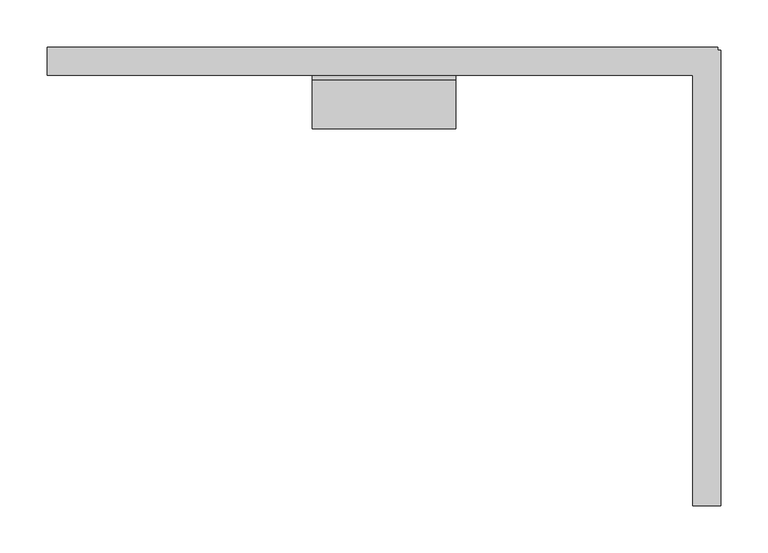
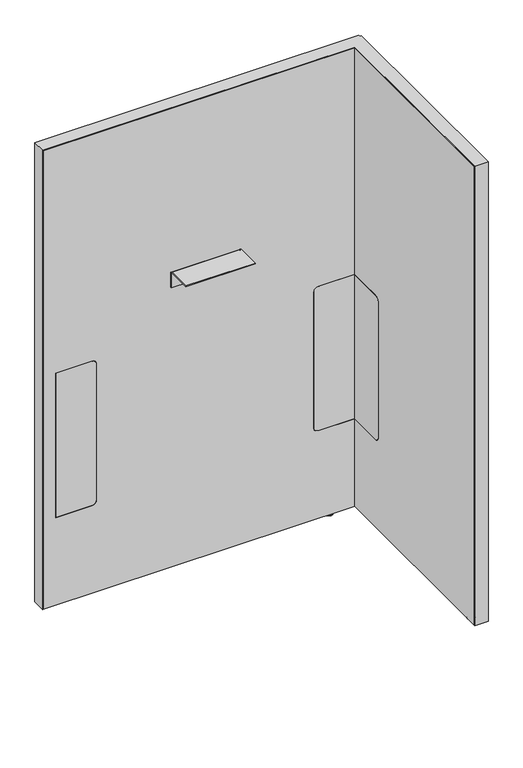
"""IFC4 building model written with IfcOpenShell, lengths in millimetres: furniture geometry, Steelcase - Answer Solution - Boundary Screen - L Return - Single Sided : 42H x 27W."""

from ifc_helpers import new_model, si_unit, point, frame, frame_2d, origin, place, context, project, spatial, polyline, circle_curve, ellipse_curve, trimmed, segment, composite_curve, outline, extrude, faceted_brep, source, transform, mapped, element, save
from ifc_brep_helpers import plane_surface, cylinder_surface, revolved_surface, advanced_brep


def furniture_e806eeda(model_context):
    return source(origin(), model_context, "Body", "SolidModel", [
        extrude(outline(composite_curve([segment(polyline([(-109.3501471, 549.6162029), (-29.0550397, 549.6162029), (-29.0550397, 213.7762137), (-109.3501471, 213.7762137)]), True, "CONTINUOUS"), segment(trimmed(circle_curve(frame_2d((-109.3501471, 223.9362137)), 10.16), [point((-109.3501471, 213.7762137))], [point((-119.5101471, 223.9362137))], False, "CARTESIAN"), True, "CONTINUOUS"), segment(polyline([(-119.5101471, 223.9362137), (-119.5101471, 539.4562029)]), True, "CONTINUOUS"), segment(trimmed(circle_curve(frame_2d((-109.3501471, 539.4562029)), 10.16), [point((-119.5101471, 539.4562029))], [point((-109.3501471, 549.6162029))], False, "CARTESIAN"), True, "CONTINUOUS")], self_intersect=False)), frame((915.6191891, 0.0, 0.0), z_axis=(1.0, 0.0, 0.0), x_axis=(0.0, 1.0, 0.0)), (0.0, 0.0, 1.0), 0.6401544),
        advanced_brep(
        [(930.4672074, -448.0136072, 0.0), (937.4216144, -448.0136072, 0.0), (923.5128003, -448.0136072, 0.0), (938.8762685, -448.0136072, 1.2700001), (922.0581463, -448.0136072, 1.2700001), (938.8762685, -448.0136072, 2.9673238), (922.0581463, -448.0136072, 2.9673238), (939.8427877, -448.0136072, 2.9673238), (921.091627, -448.0136072, 2.9673238), (939.8427877, -448.0136072, 9.9059849), (921.091627, -448.0136072, 9.9059849), (930.4672074, -448.0136072, 9.9059849)],
        [
            (0, 1),
            (1, 2, circle_curve(frame((930.4672074, -448.0136072, 0.0), z_axis=(0.0, 0.0, -1.0), x_axis=(1.0, 0.0, 0.0)), 6.9544071)),
            (2, 0),
            (2, 1, circle_curve(frame((930.4672074, -448.0136072, 0.0), z_axis=(0.0, 0.0, -1.0), x_axis=(1.0, 0.0, 0.0)), 6.9544071)),
            (1, 3, circle_curve(frame((937.5945484, -448.0136072, 1.2700001), z_axis=(0.0, -1.0, 0.0), x_axis=(0.0, 0.0, 1.0)), 1.2817201)),
            (3, 4, circle_curve(frame((930.4672074, -448.0136072, 1.2700001), z_axis=(0.0, 0.0, -1.0), x_axis=(1.0, 0.0, 0.0)), 8.4090611)),
            (4, 2, circle_curve(frame((923.3398663, -448.0136072, 1.2700001), z_axis=(0.0, -1.0, 0.0), x_axis=(0.0, 0.0, 1.0)), 1.2817201)),
            (4, 3, circle_curve(frame((930.4672074, -448.0136072, 1.2700001), z_axis=(0.0, 0.0, -1.0), x_axis=(1.0, 0.0, 0.0)), 8.4090611)),
            (3, 5),
            (5, 6, circle_curve(frame((930.4672074, -448.0136072, 2.9673238), z_axis=(0.0, 0.0, -1.0), x_axis=(1.0, 0.0, 0.0)), 8.4090611)),
            (6, 4),
            (6, 5, circle_curve(frame((930.4672074, -448.0136072, 2.9673238), z_axis=(0.0, 0.0, -1.0), x_axis=(1.0, 0.0, 0.0)), 8.4090611)),
            (5, 7),
            (7, 8, circle_curve(frame((930.4672074, -448.0136072, 2.9673238), z_axis=(0.0, 0.0, -1.0), x_axis=(1.0, 0.0, 0.0)), 9.3755804)),
            (8, 6),
            (8, 7, circle_curve(frame((930.4672074, -448.0136072, 2.9673238), z_axis=(0.0, 0.0, -1.0), x_axis=(1.0, 0.0, 0.0)), 9.3755804)),
            (7, 9),
            (9, 10, circle_curve(frame((930.4672074, -448.0136072, 9.9059849), z_axis=(0.0, 0.0, -1.0), x_axis=(1.0, 0.0, 0.0)), 9.3755804)),
            (10, 8),
            (10, 9, circle_curve(frame((930.4672074, -448.0136072, 9.9059849), z_axis=(0.0, 0.0, -1.0), x_axis=(1.0, 0.0, 0.0)), 9.3755804)),
            (9, 11),
            (11, 10),
        ],
        [
            plane_surface(frame((930.4672074, -448.0136072, 0.0), z_axis=(0.0, 0.0, -1.0), x_axis=(1.0, 0.0, 0.0))),
            revolved_surface(trimmed(ellipse_curve(frame((937.5945484, -448.0136072, 1.2700001), z_axis=(0.0, 1.0, 0.0), x_axis=(0.0, 0.0, 1.0)), 1.2817201, 1.2817201), [point((938.8762685, -448.0136072, 1.2700001))], [point((937.4216144, -448.0136072, 0.0))], True, "CARTESIAN"), (930.4672074, -448.0136072, 9.9059849), (0.0, 0.0, -1.0)),
            cylinder_surface(frame((930.4672074, -448.0136072, 9.9059849), z_axis=(0.0, 0.0, -1.0), x_axis=(1.0, 0.0, 0.0)), 8.4090611),
            plane_surface(frame((930.4672074, -448.0136072, 2.9673238), z_axis=(0.0, 0.0, -1.0), x_axis=(1.0, 0.0, 0.0))),
            cylinder_surface(frame((930.4672074, -448.0136072, 9.9059849), z_axis=(0.0, 0.0, -1.0), x_axis=(1.0, 0.0, 0.0)), 9.3755804),
            plane_surface(frame((930.4672074, -448.0136072, 9.9059849), z_axis=(0.0, 0.0, 1.0), x_axis=(1.0, 0.0, 0.0))),
        ],
        [
            (0, [[1, 2, 3]]),
            (0, [[-3, 4, -1]]),
            (1, [[-2, 5, 6, 7]]),
            (1, [[-4, -7, 8, -5]]),
            (2, [[-6, 9, 10, 11]]),
            (2, [[-8, -11, 12, -9]]),
            (3, [[-10, 13, 14, 15]]),
            (3, [[-12, -15, 16, -13]]),
            (4, [[-14, 17, 18, 19]]),
            (4, [[-16, -19, 20, -17]]),
            (5, [[-18, 21, 22]]),
            (5, [[-20, -22, -21]]),
        ],
    ),
        faceted_brep([(942.0531179, 0.0, 1077.722), (942.0531179, 0.0, 9.9059849), (941.0621491, 0.0, 9.9059849), (941.0621491, 0.0, 1076.742118), (230.8097779, 0.0, 1076.742118), (230.8097779, 0.0, 9.9059849), (229.8191891, 0.0, 9.9059849), (229.8191891, 0.0, 1077.722), (229.8191891, -29.6898332, 1077.722), (229.8191891, -29.6898332, 9.9059849), (230.8097779, -29.6898332, 9.9059849), (230.8097779, -29.6898332, 1076.742118), (915.6191891, -29.6898332, 1076.742118), (915.6191891, -29.6898332, 1077.722), (941.0621491, -29.6898332, 1076.742118), (941.0621491, -29.6898332, 9.9059849), (942.0531179, -29.6898332, 9.9059849), (942.0531179, -29.6898332, 1076.742118), (942.0531179, -3.2625916, 1077.722), (942.0531179, -3.2625916, 9.9059849), (942.0531179, -4.252647, 9.9059849), (942.0531179, -4.252647, 1076.742118), (945.3152256, -3.2625916, 9.9059849), (945.3152256, -4.252647, 9.9059849), (941.0621491, -4.252647, 9.9059849), (915.6191891, -4.252647, 9.9059849), (915.6191891, -3.2625916, 9.9059849), (941.0621491, -3.2625916, 9.9059849), (915.6191891, -486.8898332, 1077.722), (945.3152256, -486.8898332, 1077.722), (945.3152256, -3.2625916, 1077.722), (941.0621491, -3.2625916, 1076.742118), (941.0621491, -4.252647, 1076.742118), (915.6191891, -3.2625916, 1076.742118), (915.6191891, -4.252647, 1076.742118), (945.3152256, -4.252647, 1076.742118), (945.3152256, -485.899196, 1076.742118), (915.6191891, -485.899196, 1076.742118), (915.6191891, -485.899196, 9.9059849), (915.6191891, -486.8898332, 9.9059849), (945.3152256, -486.8898332, 9.9059849), (945.3152256, -485.899196, 9.9059849)], [[[0, 1, 2, 3, 4, 5, 6, 7]], [[8, 9, 10, 11, 12, 13]], [[14, 15, 16, 17]], [[1, 0, 18, 19]], [[17, 16, 20, 21]], [[2, 1, 19, 22, 23, 20, 16, 15, 24, 25, 26, 27]], [[7, 6, 9, 8]], [[0, 7, 8, 13, 28, 29, 30, 18]], [[3, 2, 27, 31]], [[15, 14, 32, 24]], [[4, 3, 31, 33, 34, 32, 14, 17, 21, 35, 36, 37, 12, 11]], [[5, 4, 11, 10]], [[6, 5, 10, 9]], [[26, 25, 34, 33]], [[37, 38, 39, 28, 13, 12]], [[29, 40, 41, 36, 35, 23, 22, 30]], [[27, 26, 33, 31]], [[30, 22, 19, 18]], [[34, 25, 24, 32]], [[23, 35, 21, 20]], [[38, 37, 36, 41]], [[39, 38, 41, 40]], [[28, 39, 40, 29]]]),
        extrude(outline(composite_curve([segment(polyline([(-86.8398151, 696.4680019), (-86.8398151, 698.5), (-34.9450855, 698.5)]), True, "CONTINUOUS"), segment(trimmed(circle_curve(frame_2d((-34.9450855, 693.2447477)), 5.2552523), [point((-34.9450855, 698.5))], [point((-29.6898332, 693.2447477))], False, "CARTESIAN"), True, "CONTINUOUS"), segment(polyline([(-29.6898332, 693.2447477), (-29.6898332, 660.4), (-31.7218162, 660.4), (-31.7218162, 693.0058743)]), True, "CONTINUOUS"), segment(trimmed(circle_curve(frame_2d((-35.1839438, 693.0058743)), 3.4621276), [point((-31.7218162, 693.0058743))], [point((-35.1839438, 696.4680019))], True, "CARTESIAN"), True, "CONTINUOUS"), segment(polyline([(-35.1839438, 696.4680019), (-86.8398151, 696.4680019)]), True, "CONTINUOUS")], self_intersect=False)), frame((511.3685899, 0.0, 0.0), z_axis=(1.0, 0.0, 0.0), x_axis=(0.0, 1.0, 0.0)), (0.0, 0.0, 1.0), 152.4000969),
        advanced_brep(
        [(868.1246853, -23.7588726, 9.9059849), (868.1246853, -5.9309607, 9.9059849), (868.1246853, -14.8449166, 9.9059849), (868.1246853, -23.7588726, 2.9673238), (868.1246853, -5.9309607, 2.9673238), (868.1246853, -22.7915354, 2.9673238), (868.1246853, -6.8982978, 2.9673238), (868.1246853, -22.7915354, 1.6569081), (868.1246853, -6.8982978, 1.6569081), (868.1246853, -21.1346274, 0.0), (868.1246853, -8.5552059, 0.0), (868.1246853, -14.8449166, 0.0)],
        [
            (0, 1, circle_curve(frame((868.1246853, -14.8449166, 9.9059849), z_axis=(0.0, 0.0, 1.0), x_axis=(0.0, 1.0, 0.0)), 8.913956)),
            (1, 2),
            (2, 0),
            (1, 0, circle_curve(frame((868.1246853, -14.8449166, 9.9059849), z_axis=(0.0, 0.0, 1.0), x_axis=(0.0, 1.0, 0.0)), 8.913956)),
            (3, 4, circle_curve(frame((868.1246853, -14.8449166, 2.9673238), z_axis=(0.0, 0.0, 1.0), x_axis=(0.0, 1.0, 0.0)), 8.913956)),
            (4, 1),
            (0, 3),
            (4, 3, circle_curve(frame((868.1246853, -14.8449166, 2.9673238), z_axis=(0.0, 0.0, 1.0), x_axis=(0.0, 1.0, 0.0)), 8.913956)),
            (5, 6, circle_curve(frame((868.1246853, -14.8449166, 2.9673238), z_axis=(0.0, 0.0, 1.0), x_axis=(0.0, 1.0, 0.0)), 7.9466188)),
            (6, 4),
            (3, 5),
            (6, 5, circle_curve(frame((868.1246853, -14.8449166, 2.9673238), z_axis=(0.0, 0.0, 1.0), x_axis=(0.0, 1.0, 0.0)), 7.9466188)),
            (7, 8, circle_curve(frame((868.1246853, -14.8449166, 1.6569081), z_axis=(0.0, 0.0, 1.0), x_axis=(0.0, 1.0, 0.0)), 7.9466188)),
            (8, 6),
            (5, 7),
            (8, 7, circle_curve(frame((868.1246853, -14.8449166, 1.6569081), z_axis=(0.0, 0.0, 1.0), x_axis=(0.0, 1.0, 0.0)), 7.9466188)),
            (9, 10, circle_curve(frame((868.1246853, -14.8449166, 0.0), z_axis=(0.0, 0.0, 1.0), x_axis=(0.0, 1.0, 0.0)), 6.2897107)),
            (10, 8, circle_curve(frame((868.1246853, -8.5552059, 1.6569081), z_axis=(1.0, 0.0, 0.0), x_axis=(0.0, 1.0, 0.0)), 1.6569081)),
            (7, 9, circle_curve(frame((868.1246853, -21.1346274, 1.6569081), z_axis=(1.0, 0.0, 0.0), x_axis=(0.0, -1.0, 0.0)), 1.6569081)),
            (10, 9, circle_curve(frame((868.1246853, -14.8449166, 0.0), z_axis=(0.0, 0.0, 1.0), x_axis=(0.0, 1.0, 0.0)), 6.2897107)),
            (11, 10),
            (9, 11),
        ],
        [
            plane_surface(frame((868.1246853, -14.8449166, 9.9059849), z_axis=(0.0, 0.0, 1.0), x_axis=(0.0, 1.0, 0.0))),
            cylinder_surface(frame((868.1246853, -14.8449166, 9.9059849), z_axis=(0.0, 0.0, -1.0), x_axis=(0.0, 1.0, 0.0)), 8.913956),
            plane_surface(frame((868.1246853, -14.8449166, 2.9673238), z_axis=(0.0, 0.0, -1.0), x_axis=(0.0, 1.0, 0.0))),
            cylinder_surface(frame((868.1246853, -14.8449166, 9.9059849), z_axis=(0.0, 0.0, -1.0), x_axis=(0.0, 1.0, 0.0)), 7.9466188),
            revolved_surface(trimmed(ellipse_curve(frame((868.1246853, -8.5552059, 1.6569081), z_axis=(-1.0, 0.0, 0.0), x_axis=(0.0, 1.0, 0.0)), 1.6569081, 1.6569081), [point((868.1246853, -6.8982978, 1.6569081))], [point((868.1246853, -8.5552059, 0.0))], True, "CARTESIAN"), (868.1246853, -14.8449166, 9.9059849), (0.0, 0.0, -1.0)),
            plane_surface(frame((868.1246853, -14.8449166, 0.0), z_axis=(0.0, 0.0, -1.0), x_axis=(0.0, 1.0, 0.0))),
        ],
        [
            (0, [[1, 2, 3]]),
            (0, [[4, -3, -2]]),
            (1, [[5, 6, -1, 7]]),
            (1, [[8, -7, -4, -6]]),
            (2, [[9, 10, -5, 11]]),
            (2, [[12, -11, -8, -10]]),
            (3, [[13, 14, -9, 15]]),
            (3, [[16, -15, -12, -14]]),
            (4, [[17, 18, -13, 19]]),
            (4, [[20, -19, -16, -18]]),
            (5, [[21, -17, 22]]),
            (5, [[-22, -20, -21]]),
        ],
    ),
        advanced_brep(
        [(230.8097779, 0.0, 1076.742118), (941.0621491, 0.0, 1076.742118), (941.0621491, 0.0, 9.9059849), (230.8097779, 0.0, 9.9059849), (347.9483813, -29.0550397, 539.4562029), (337.7883813, -29.0550397, 549.6162029), (258.1344836, -29.0550397, 549.6162029), (258.1344836, -29.0550397, 213.7762137), (337.7883813, -29.0550397, 213.7762137), (347.9483813, -29.0550397, 223.9362137), (916.2593435, -29.0550397, 213.7762137), (916.2593435, -29.0550397, 549.6162029), (835.7109268, -29.0550397, 549.6162029), (825.5509268, -29.0550397, 539.4562029), (825.5509268, -29.0550397, 223.9362137), (835.7109268, -29.0550397, 213.7762137), (230.8097779, -29.6898332, 1076.742118), (230.8097779, -29.6898332, 9.9059849), (915.6191891, -29.6898332, 9.9059849), (915.6191891, -29.6898332, 213.7762137), (835.7109268, -29.6898332, 213.7762137), (825.5509268, -29.6898332, 223.9362137), (825.5509268, -29.6898332, 539.4562029), (835.7109268, -29.6898332, 549.6162029), (915.6191891, -29.6898332, 549.6162029), (915.6191891, -29.6898332, 1076.742118), (337.7883813, -29.6898332, 549.6162029), (347.9483813, -29.6898332, 539.4562029), (347.9483813, -29.6898332, 223.9362137), (337.7883813, -29.6898332, 213.7762137), (258.1344836, -29.6898332, 213.7762137), (258.1344836, -29.6898332, 549.6162029), (941.0621491, -4.252647, 9.9059849), (945.3152256, -4.252647, 9.9059849), (945.3152256, -485.899196, 9.9059849), (915.6191891, -485.899196, 9.9059849), (941.0621491, -4.252647, 1076.742118), (915.6191891, -485.899196, 1076.742118), (945.3152256, -485.899196, 1076.742118), (945.3152256, -4.252647, 1076.742118), (916.2593435, -109.3501471, 549.6162029), (915.6191891, -109.3501471, 549.6162029), (916.2593435, -109.3501471, 213.7762137), (916.2593435, -119.5101471, 223.9362137), (916.2593435, -119.5101471, 539.4562029), (915.6191891, -109.3501471, 213.7762137), (915.6191891, -119.5101471, 539.4562029), (915.6191891, -119.5101471, 223.9362137)],
        [
            (0, 1),
            (1, 2),
            (2, 3),
            (3, 0),
            (4, 5, circle_curve(frame((337.7883813, -29.0550397, 539.4562029), z_axis=(0.0, -1.0, 0.0), x_axis=(0.0, 0.0, 1.0)), 10.16)),
            (5, 6),
            (6, 7),
            (7, 8),
            (8, 9, circle_curve(frame((337.7883813, -29.0550397, 223.9362137), z_axis=(0.0, -1.0, 0.0), x_axis=(0.0, 0.0, 1.0)), 10.16)),
            (9, 4),
            (10, 11),
            (11, 12),
            (12, 13, circle_curve(frame((835.7109268, -29.0550397, 539.4562029), z_axis=(0.0, -1.0, 0.0), x_axis=(0.0, 0.0, 1.0)), 10.16)),
            (13, 14),
            (14, 15, circle_curve(frame((835.7109268, -29.0550397, 223.9362137), z_axis=(0.0, -1.0, 0.0), x_axis=(0.0, 0.0, 1.0)), 10.16)),
            (15, 10),
            (16, 17),
            (17, 18),
            (18, 19),
            (19, 20),
            (20, 21, circle_curve(frame((835.7109268, -29.6898332, 223.9362137), z_axis=(0.0, 1.0, 0.0), x_axis=(0.0, 0.0, 1.0)), 10.16)),
            (21, 22),
            (22, 23, circle_curve(frame((835.7109268, -29.6898332, 539.4562029), z_axis=(0.0, 1.0, 0.0), x_axis=(0.0, 0.0, 1.0)), 10.16)),
            (23, 24),
            (24, 25),
            (25, 16),
            (26, 27, circle_curve(frame((337.7883813, -29.6898332, 539.4562029), z_axis=(0.0, 1.0, 0.0), x_axis=(0.0, 0.0, 1.0)), 10.16)),
            (27, 28),
            (28, 29, circle_curve(frame((337.7883813, -29.6898332, 223.9362137), z_axis=(0.0, 1.0, 0.0), x_axis=(0.0, 0.0, 1.0)), 10.16)),
            (29, 30),
            (30, 31),
            (31, 26),
            (16, 0),
            (3, 17),
            (2, 32),
            (32, 33),
            (33, 34),
            (34, 35),
            (35, 18),
            (1, 36),
            (36, 32),
            (25, 37),
            (37, 38),
            (38, 39),
            (39, 36),
            (26, 5),
            (4, 27),
            (9, 28),
            (8, 29),
            (7, 30),
            (6, 31),
            (11, 40),
            (40, 41),
            (41, 24),
            (23, 12),
            (42, 43, circle_curve(frame((916.2593435, -109.3501471, 223.9362137), z_axis=(-1.0, 0.0, 0.0), x_axis=(0.0, 1.0, 0.0)), 10.16)),
            (43, 44),
            (44, 40, circle_curve(frame((916.2593435, -109.3501471, 539.4562029), z_axis=(-1.0, 0.0, 0.0), x_axis=(0.0, 1.0, 0.0)), 10.16)),
            (10, 42),
            (15, 20),
            (19, 45),
            (45, 42),
            (14, 21),
            (13, 22),
            (35, 37),
            (41, 46, circle_curve(frame((915.6191891, -109.3501471, 539.4562029), z_axis=(1.0, 0.0, 0.0), x_axis=(0.0, 1.0, 0.0)), 10.16)),
            (46, 47),
            (47, 45, circle_curve(frame((915.6191891, -109.3501471, 223.9362137), z_axis=(1.0, 0.0, 0.0), x_axis=(0.0, 1.0, 0.0)), 10.16)),
            (38, 34),
            (33, 39),
            (44, 46),
            (43, 47),
        ],
        [
            plane_surface(frame((347.9483813, 0.0, 549.6162029), z_axis=(0.0, 1.0, 0.0), x_axis=(0.0, 0.0, -1.0))),
            plane_surface(frame((347.9483813, -29.0550397, 549.6162029), z_axis=(0.0, -1.0, 0.0), x_axis=(0.0, 0.0, 1.0))),
            plane_surface(frame((941.0621491, -29.6898332, 1076.742118), z_axis=(0.0, -1.0, 0.0), x_axis=(-1.0, 0.0, 0.0))),
            plane_surface(frame((230.8097779, 0.0, 9.9059849), z_axis=(-1.0, 0.0, 0.0), x_axis=(0.0, -1.0, 0.0))),
            plane_surface(frame((941.0621491, 0.0, 9.9059849), z_axis=(0.0, 0.0, -1.0), x_axis=(0.0, -1.0, 0.0))),
            plane_surface(frame((941.0621491, 0.0, 1076.742118), z_axis=(1.0, 0.0, 0.0), x_axis=(0.0, -1.0, 0.0))),
            plane_surface(frame((230.8097779, 0.0, 1076.742118), z_axis=(0.0, 0.0, 1.0), x_axis=(0.0, -1.0, 0.0))),
            revolved_surface(polyline([(337.7883813, -29.6898332, 549.6162029), (337.7883813, -29.0550397, 549.6162029)]), (337.7883813, -29.6898332, 539.4562029), (0.0, -1.0, 0.0)),
            plane_surface(frame((347.9483813, 0.0, 223.9362137), z_axis=(-1.0, 0.0, 0.0), x_axis=(0.0, -1.0, 0.0))),
            revolved_surface(polyline([(337.7883813, -29.6898332, 234.0962137), (337.7883813, -29.0550397, 234.0962137)]), (337.7883813, -29.6898332, 223.9362137), (0.0, -1.0, 0.0)),
            plane_surface(frame((258.1344836, 0.0, 213.7762137), z_axis=(0.0, 0.0, 1.0), x_axis=(0.0, -1.0, 0.0))),
            plane_surface(frame((258.1344836, 0.0, 549.6162029), z_axis=(1.0, 0.0, 0.0), x_axis=(0.0, -1.0, 0.0))),
            plane_surface(frame((337.7883813, 0.0, 549.6162029), z_axis=(0.0, 0.0, -1.0), x_axis=(0.0, -1.0, 0.0))),
            plane_surface(frame((916.2593435, 0.0, 549.6162029), z_axis=(0.0, 0.0, -1.0), x_axis=(0.0, -1.0, 0.0))),
            plane_surface(frame((916.2593435, 0.0, 213.7762137), z_axis=(-1.0, 0.0, 0.0), x_axis=(0.0, -1.0, 0.0))),
            plane_surface(frame((835.7109268, 0.0, 213.7762137), z_axis=(0.0, 0.0, 1.0), x_axis=(0.0, -1.0, 0.0))),
            revolved_surface(polyline([(835.7109268, -29.6898332, 234.0962137), (835.7109268, -29.0550397, 234.0962137)]), (835.7109268, -29.6898332, 223.9362137), (0.0, -1.0, 0.0)),
            plane_surface(frame((825.5509268, 0.0, 539.4562029), z_axis=(1.0, 0.0, 0.0), x_axis=(0.0, -1.0, 0.0))),
            revolved_surface(polyline([(835.7109268, -29.6898332, 549.6162029), (835.7109268, -29.0550397, 549.6162029)]), (835.7109268, -29.6898332, 539.4562029), (0.0, -1.0, 0.0)),
            plane_surface(frame((915.6191891, -485.899196, 1076.742118), z_axis=(-1.0, 0.0, 0.0), x_axis=(0.0, 0.0, 1.0))),
            plane_surface(frame((945.3152256, -485.899196, 1076.742118), z_axis=(1.0, 0.0, 0.0), x_axis=(0.0, 0.0, -1.0))),
            plane_surface(frame((945.3152256, -4.252647, 9.9059849), z_axis=(0.0, 1.0, 0.0), x_axis=(-1.0, 0.0, 0.0))),
            plane_surface(frame((945.3152256, -485.899196, 1076.742118), z_axis=(0.0, -1.0, 0.0), x_axis=(-1.0, 0.0, 0.0))),
            revolved_surface(polyline([(915.6191891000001, -99.1901471, 539.4562029), (916.2593435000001, -99.1901471, 539.4562029)]), (-340.6902705, -109.3501471, 539.4562029), (-1.0, 0.0, 0.0)),
            plane_surface(frame((945.3152256, -119.5101471, 223.9362137), z_axis=(0.0, 1.0, 0.0), x_axis=(-1.0, 0.0, 0.0))),
            revolved_surface(polyline([(915.6191891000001, -99.1901471, 223.9362137), (916.2593435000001, -99.1901471, 223.9362137)]), (-340.6902705, -109.3501471, 223.9362137), (-1.0, 0.0, 0.0)),
        ],
        [
            (0, [[1, 2, 3, 4]]),
            (1, [[5, 6, 7, 8, 9, 10]]),
            (1, [[11, 12, 13, 14, 15, 16]]),
            (2, [[17, 18, 19, 20, 21, 22, 23, 24, 25, 26], [27, 28, 29, 30, 31, 32]]),
            (3, [[-17, 33, -4, 34]]),
            (4, [[-3, 35, 36, 37, 38, 39, -18, -34]]),
            (5, [[-2, 40, 41, -35]]),
            (6, [[-1, -33, -26, 42, 43, 44, 45, -40]]),
            (7, [[-27, 46, -5, 47]]),
            (8, [[-28, -47, -10, 48]]),
            (9, [[-29, -48, -9, 49]]),
            (10, [[-30, -49, -8, 50]]),
            (11, [[-31, -50, -7, 51]]),
            (12, [[-32, -51, -6, -46]]),
            (13, [[52, 53, 54, -24, 55, -12]]),
            (14, [[56, 57, 58, -52, -11, 59]]),
            (15, [[-59, -16, 60, -20, 61, 62]]),
            (16, [[-21, -60, -15, 63]]),
            (17, [[-22, -63, -14, 64]]),
            (18, [[-23, -64, -13, -55]]),
            (19, [[65, -42, -25, -54, 66, 67, 68, -61, -19, -39]]),
            (20, [[69, -37, 70, -44]]),
            (21, [[-70, -36, -41, -45]]),
            (22, [[-65, -38, -69, -43]]),
            (23, [[-66, -53, -58, 71]]),
            (24, [[-67, -71, -57, 72]]),
            (25, [[-68, -72, -56, -62]]),
        ],
    ),
        extrude(outline(composite_curve([segment(polyline([(549.6162029, 337.7883813), (549.6162029, 258.1344836), (213.7762137, 258.1344836), (213.7762137, 337.7883813)]), True, "CONTINUOUS"), segment(trimmed(circle_curve(frame_2d((223.9362137, 337.7883813)), 10.16), [point((213.7762137, 337.7883813))], [point((223.9362137, 347.9483813))], False, "CARTESIAN"), True, "CONTINUOUS"), segment(polyline([(223.9362137, 347.9483813), (539.4562029, 347.9483813)]), True, "CONTINUOUS"), segment(trimmed(circle_curve(frame_2d((539.4562029, 337.7883813)), 10.16), [point((539.4562029, 347.9483813))], [point((549.6162029, 337.7883813))], False, "CARTESIAN"), True, "CONTINUOUS")], self_intersect=False)), frame((0.0, -29.6898332, 0.0), z_axis=(0.0, 1.0, 0.0), x_axis=(0.0, 0.0, 1.0)), (0.0, 0.0, 1.0), 0.6347935),
        extrude(outline(composite_curve([segment(trimmed(circle_curve(frame_2d((539.4562029, 835.7109268)), 10.16), [point((549.6162029, 835.7109268))], [point((539.4562029, 825.5509268))], False, "CARTESIAN"), True, "CONTINUOUS"), segment(polyline([(539.4562029, 825.5509268), (223.9362137, 825.5509268)]), True, "CONTINUOUS"), segment(trimmed(circle_curve(frame_2d((223.9362137, 835.7109268)), 10.16), [point((223.9362137, 825.5509268))], [point((213.7762137, 835.7109268))], False, "CARTESIAN"), True, "CONTINUOUS"), segment(polyline([(213.7762137, 835.7109268), (213.7762137, 915.6191891), (549.6162029, 915.6191891), (549.6162029, 835.7109268)]), True, "CONTINUOUS")], self_intersect=False)), frame((0.0, -29.6898332, 0.0), z_axis=(0.0, 1.0, 0.0), x_axis=(0.0, 0.0, 1.0)), (0.0, 0.0, 1.0), 0.6347935),
    ])


if __name__ == "__main__":
    model = new_model("IFC4")
    model_context = context("Model", 3, world=origin())
    ifc_project = project(units=[si_unit("LENGTHUNIT", "METRE", prefix="MILLI")], contexts=[model_context])
    site = spatial("IfcSite", under=ifc_project)
    building = spatial("IfcBuilding", under=site)
    placement = place(None, origin())
    furniture_shape = furniture_e806eeda(model_context)
    element("IfcFurniture", 1, ObjectType="Steelcase - Answer Solution - Boundary Screen - L Return - Single Sided : 42H x 27W", at=placement, inside=building, context=model_context, shape_type="MappedRepresentation", body=[
        mapped(furniture_shape, transform((0.0, 0.0, 0.0), x_axis=(1.0, 0.0, 0.0), y_axis=(0.0, 1.0, 0.0), z_axis=(0.0, 0.0, 1.0))),
    ])
    save(model, "model.ifc")
